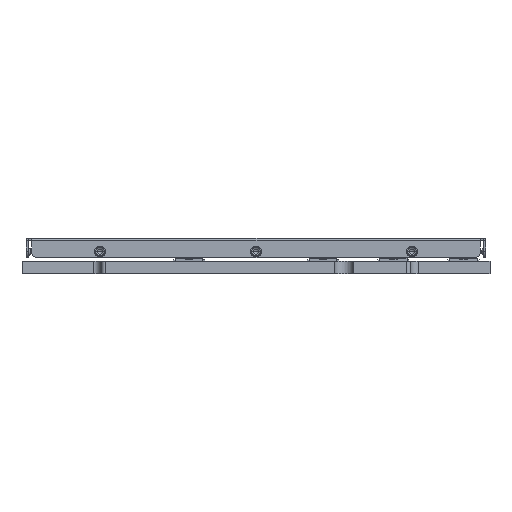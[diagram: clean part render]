
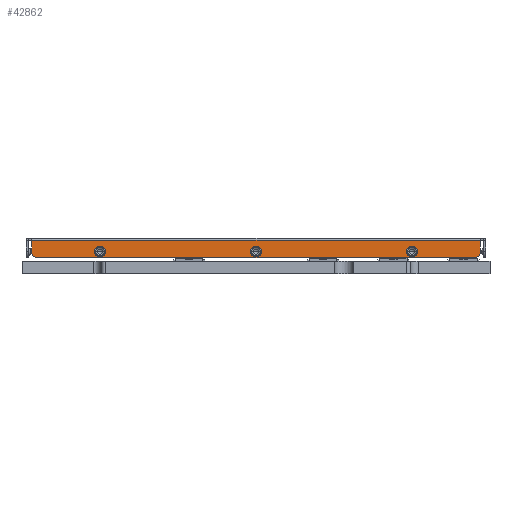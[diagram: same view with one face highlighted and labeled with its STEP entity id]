
A CAD part, front view. The second image highlights one B-rep face of the part: STEP entity #42862.
In plain terms, the highlighted planar face has unit normal (0, -1, 0).
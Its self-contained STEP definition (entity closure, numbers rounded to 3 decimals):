
#10817=DIRECTION('',(1.,0.,0.));
#10818=VECTOR('',#10817,28.78);
#10819=CARTESIAN_POINT('',(-14.39,-22.065,1.1));
#10820=LINE('',#10819,#10818);
#10845=CARTESIAN_POINT('',(13.99,-22.065,0.4));
#10846=DIRECTION('',(0.,-1.,0.));
#10847=DIRECTION('',(0.,0.,-1.));
#10848=AXIS2_PLACEMENT_3D('',#10845,#10846,#10847);
#10853=CARTESIAN_POINT('',(-13.99,-22.065,0.4));
#10854=DIRECTION('',(0.,-1.,0.));
#10855=DIRECTION('',(-1.,0.,0.));
#10856=AXIS2_PLACEMENT_3D('',#10853,#10854,#10855);
#10861=DIRECTION('',(0.,0.,1.));
#10862=VECTOR('',#10861,0.7);
#10863=CARTESIAN_POINT('',(-14.39,-22.065,0.4));
#10864=LINE('',#10863,#10862);
#10868=DIRECTION('',(0.,0.,1.));
#10869=VECTOR('',#10868,0.7);
#10870=CARTESIAN_POINT('',(14.39,-22.065,0.4));
#10871=LINE('',#10870,#10869);
#10875=CARTESIAN_POINT('',(10.,-22.065,0.38));
#10876=DIRECTION('',(0.,1.,0.));
#10877=DIRECTION('',(-1.,0.,0.));
#10878=AXIS2_PLACEMENT_3D('',#10875,#10876,#10877);
#10891=CARTESIAN_POINT('',(10.,-22.065,0.38));
#10892=DIRECTION('',(0.,1.,0.));
#10893=DIRECTION('',(1.,0.,0.));
#10894=AXIS2_PLACEMENT_3D('',#10891,#10892,#10893);
#10939=CARTESIAN_POINT('',(0.,-22.065,0.38));
#10940=DIRECTION('',(0.,1.,0.));
#10941=DIRECTION('',(-1.,0.,0.));
#10942=AXIS2_PLACEMENT_3D('',#10939,#10940,#10941);
#10955=CARTESIAN_POINT('',(0.,-22.065,0.38));
#10956=DIRECTION('',(0.,1.,0.));
#10957=DIRECTION('',(1.,0.,0.));
#10958=AXIS2_PLACEMENT_3D('',#10955,#10956,#10957);
#11003=CARTESIAN_POINT('',(-10.,-22.065,0.38));
#11004=DIRECTION('',(0.,1.,0.));
#11005=DIRECTION('',(-1.,0.,0.));
#11006=AXIS2_PLACEMENT_3D('',#11003,#11004,#11005);
#11019=CARTESIAN_POINT('',(-10.,-22.065,0.38));
#11020=DIRECTION('',(0.,1.,0.));
#11021=DIRECTION('',(1.,0.,0.));
#11022=AXIS2_PLACEMENT_3D('',#11019,#11020,#11021);
#11088=DIRECTION('',(1.,0.,0.));
#11089=VECTOR('',#11088,27.98);
#11090=CARTESIAN_POINT('',(-13.99,-22.065,0.));
#11091=LINE('',#11090,#11089);
#32983=CARTESIAN_POINT('',(-14.39,-22.065,1.1));
#32984=VERTEX_POINT('',#32983);
#32985=CARTESIAN_POINT('',(14.39,-22.065,1.1));
#32986=VERTEX_POINT('',#32985);
#33071=CARTESIAN_POINT('',(13.99,-22.065,0.));
#33072=CARTESIAN_POINT('',(14.39,-22.065,0.4));
#33073=VERTEX_POINT('',#33071);
#33074=VERTEX_POINT('',#33072);
#33087=CARTESIAN_POINT('',(-14.39,-22.065,0.4));
#33088=CARTESIAN_POINT('',(-13.99,-22.065,0.));
#33089=VERTEX_POINT('',#33087);
#33090=VERTEX_POINT('',#33088);
#33215=CARTESIAN_POINT('',(9.654,-22.065,0.38));
#33216=CARTESIAN_POINT('',(10.346,-22.065,0.38));
#33217=VERTEX_POINT('',#33215);
#33218=VERTEX_POINT('',#33216);
#33235=CARTESIAN_POINT('',(-0.346,-22.065,0.38));
#33236=CARTESIAN_POINT('',(0.346,-22.065,0.38));
#33237=VERTEX_POINT('',#33235);
#33238=VERTEX_POINT('',#33236);
#33255=CARTESIAN_POINT('',(-10.346,-22.065,0.38));
#33256=CARTESIAN_POINT('',(-9.654,-22.065,0.38));
#33257=VERTEX_POINT('',#33255);
#33258=VERTEX_POINT('',#33256);
#42828=CARTESIAN_POINT('',(-14.74,-22.065,0.));
#42829=DIRECTION('',(0.,-1.,0.));
#42830=DIRECTION('',(1.,0.,0.));
#42831=AXIS2_PLACEMENT_3D('',#42828,#42829,#42830);
#42832=PLANE('',#42831);
#42833=ORIENTED_EDGE('',*,*,#42818,.F.);
#42835=ORIENTED_EDGE('',*,*,#42834,.F.);
#42837=ORIENTED_EDGE('',*,*,#42836,.F.);
#42839=ORIENTED_EDGE('',*,*,#42838,.T.);
#42840=ORIENTED_EDGE('',*,*,#42780,.T.);
#42841=ORIENTED_EDGE('',*,*,#42805,.F.);
#42842=EDGE_LOOP('',(#42833,#42835,#42837,#42839,#42840,#42841));
#42843=FACE_OUTER_BOUND('',#42842,.F.);
#42845=ORIENTED_EDGE('',*,*,#42844,.F.);
#42847=ORIENTED_EDGE('',*,*,#42846,.F.);
#42848=EDGE_LOOP('',(#42845,#42847));
#42849=FACE_BOUND('',#42848,.F.);
#42851=ORIENTED_EDGE('',*,*,#42850,.F.);
#42853=ORIENTED_EDGE('',*,*,#42852,.F.);
#42854=EDGE_LOOP('',(#42851,#42853));
#42855=FACE_BOUND('',#42854,.F.);
#42857=ORIENTED_EDGE('',*,*,#42856,.F.);
#42859=ORIENTED_EDGE('',*,*,#42858,.F.);
#42860=EDGE_LOOP('',(#42857,#42859));
#42861=FACE_BOUND('',#42860,.F.);
#42862=ADVANCED_FACE('',(#42843,#42849,#42855,#42861),#42832,.T.);
#10849=CIRCLE('',#10848,0.4);
#10857=CIRCLE('',#10856,0.4);
#10879=CIRCLE('',#10878,0.346);
#10895=CIRCLE('',#10894,0.346);
#10943=CIRCLE('',#10942,0.346);
#10959=CIRCLE('',#10958,0.346);
#11007=CIRCLE('',#11006,0.346);
#11023=CIRCLE('',#11022,0.346);
#42780=EDGE_CURVE('',#32984,#32986,#10820,.T.);
#42805=EDGE_CURVE('',#33074,#32986,#10871,.T.);
#42818=EDGE_CURVE('',#33073,#33074,#10849,.T.);
#42834=EDGE_CURVE('',#33090,#33073,#11091,.T.);
#42836=EDGE_CURVE('',#33089,#33090,#10857,.T.);
#42838=EDGE_CURVE('',#33089,#32984,#10864,.T.);
#42844=EDGE_CURVE('',#33237,#33238,#10943,.T.);
#42846=EDGE_CURVE('',#33238,#33237,#10959,.T.);
#42850=EDGE_CURVE('',#33257,#33258,#11007,.T.);
#42852=EDGE_CURVE('',#33258,#33257,#11023,.T.);
#42856=EDGE_CURVE('',#33217,#33218,#10879,.T.);
#42858=EDGE_CURVE('',#33218,#33217,#10895,.T.);
